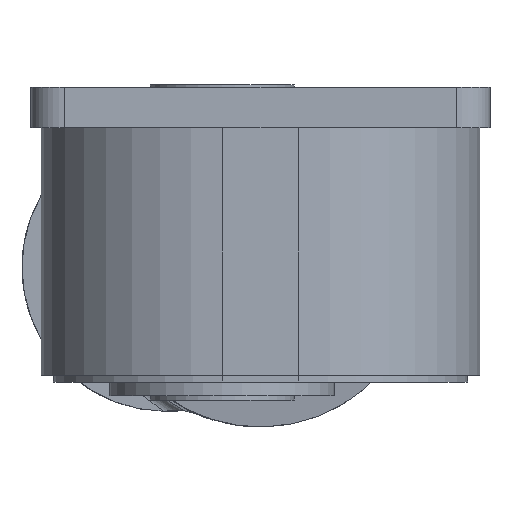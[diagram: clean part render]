
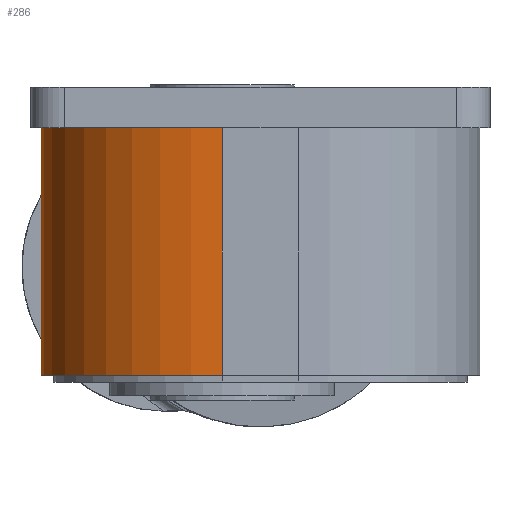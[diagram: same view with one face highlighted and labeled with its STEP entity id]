
A CAD part, left-side view. The second image highlights one B-rep face of the part: STEP entity #286.
In plain terms, the highlighted cylindrical face has radius 80.5 mm (diameter 161 mm), a partial arc.
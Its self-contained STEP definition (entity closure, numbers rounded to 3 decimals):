
#286 = ADVANCED_FACE( '', ( #984 ), #985, .T. );
#984 = FACE_OUTER_BOUND( '', #2460, .T. );
#985 = CYLINDRICAL_SURFACE( '', #2461, 80.5 );
#2460 = EDGE_LOOP( '', ( #4069, #4070, #4071, #4072 ) );
#2461 = AXIS2_PLACEMENT_3D( '', #4073, #4074, #4075 );
#4069 = ORIENTED_EDGE( '', *, *, #9599, .F. );
#4070 = ORIENTED_EDGE( '', *, *, #9600, .F. );
#4071 = ORIENTED_EDGE( '', *, *, #9551, .T. );
#4072 = ORIENTED_EDGE( '', *, *, #9601, .T. );
#4073 = CARTESIAN_POINT( '', ( -128., 0., 0. ) );
#4074 = DIRECTION( '', ( -1., 0., 0. ) );
#4075 = DIRECTION( '', ( 0., 0., -1. ) );
#9551 = EDGE_CURVE( '', #11391, #11389, #11392, .T. );
#9599 = EDGE_CURVE( '', #11484, #11485, #11486, .T. );
#9600 = EDGE_CURVE( '', #11391, #11484, #11487, .T. );
#9601 = EDGE_CURVE( '', #11389, #11485, #11488, .T. );
#11389 = VERTEX_POINT( '', #14385 );
#11391 = VERTEX_POINT( '', #14388 );
#11392 = CIRCLE( '', #14389, 80.5 );
#11484 = VERTEX_POINT( '', #14499 );
#11485 = VERTEX_POINT( '', #14500 );
#11486 = CIRCLE( '', #14501, 80.5 );
#11487 = LINE( '', #14502, #14503 );
#11488 = LINE( '', #14504, #14505 );
#14385 = CARTESIAN_POINT( '', ( -128., 0., 80.5 ) );
#14388 = CARTESIAN_POINT( '', ( -128., 80.5, 0. ) );
#14389 = AXIS2_PLACEMENT_3D( '', #18624, #18625, #18626 );
#14499 = CARTESIAN_POINT( '', ( -18., 80.5, 0. ) );
#14500 = CARTESIAN_POINT( '', ( -18., 0., 80.5 ) );
#14501 = AXIS2_PLACEMENT_3D( '', #18732, #18733, #18734 );
#14502 = CARTESIAN_POINT( '', ( -128., 80.5, 0. ) );
#14503 = VECTOR( '', #18735, 1000. );
#14504 = CARTESIAN_POINT( '', ( -128., 0., 80.5 ) );
#14505 = VECTOR( '', #18736, 1000. );
#18624 = CARTESIAN_POINT( '', ( -128., 0., 0. ) );
#18625 = DIRECTION( '', ( 1., 0., 0. ) );
#18626 = DIRECTION( '', ( 0., 0., -1. ) );
#18732 = CARTESIAN_POINT( '', ( -18., 0., 0. ) );
#18733 = DIRECTION( '', ( 1., 0., 0. ) );
#18734 = DIRECTION( '', ( 0., 0., -1. ) );
#18735 = DIRECTION( '', ( 1., 0., 0. ) );
#18736 = DIRECTION( '', ( 1., 0., 0. ) );
